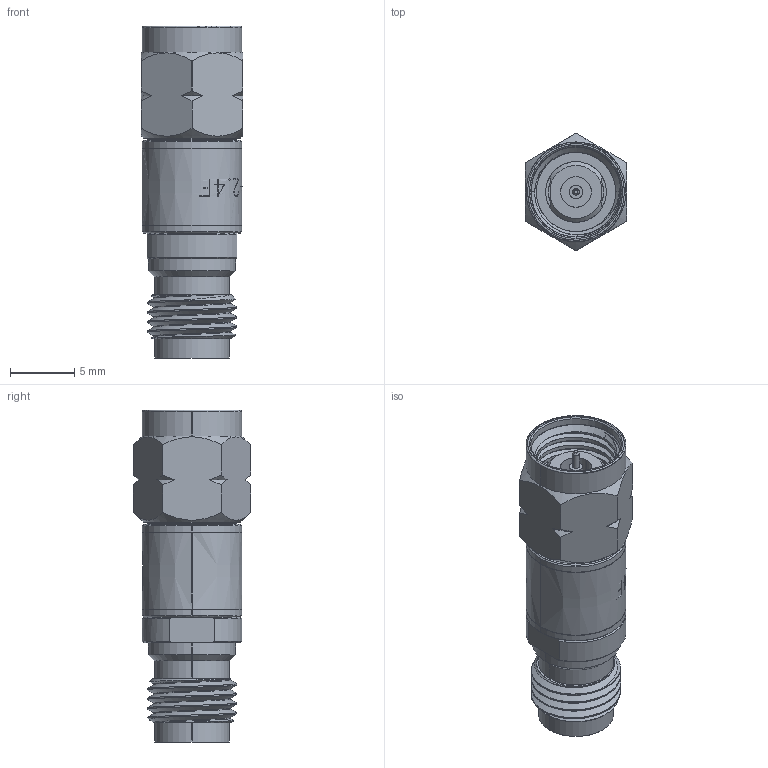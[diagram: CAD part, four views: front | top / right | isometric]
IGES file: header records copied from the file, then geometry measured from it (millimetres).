
Start section: SolidWorks IGES file using analytic representation for surfaces
Global section: file name: C:\Users\sculpepper\Desktop\8034000K001-803-C\8034000K001-803-Cigs.IGS; native system: SolidWorks 2019; preprocessor: SolidWorks 2019; author: sculpepper; date: 201029.165506; units: inch
Bounding box: 7.92 x 9.15 x 25.93 mm (x, y, z)
Surface area: 1271.8 mm2 (no closed solid volume)
Topology: 0 solids, 0 shells, 313 faces, 3941 edges, 3941 vertices
Faces by surface type: bspline 177, revolution 136
